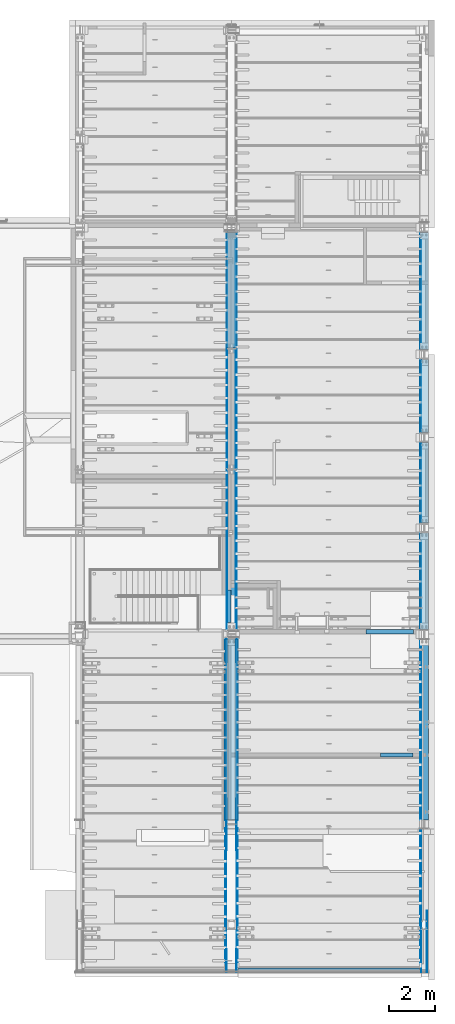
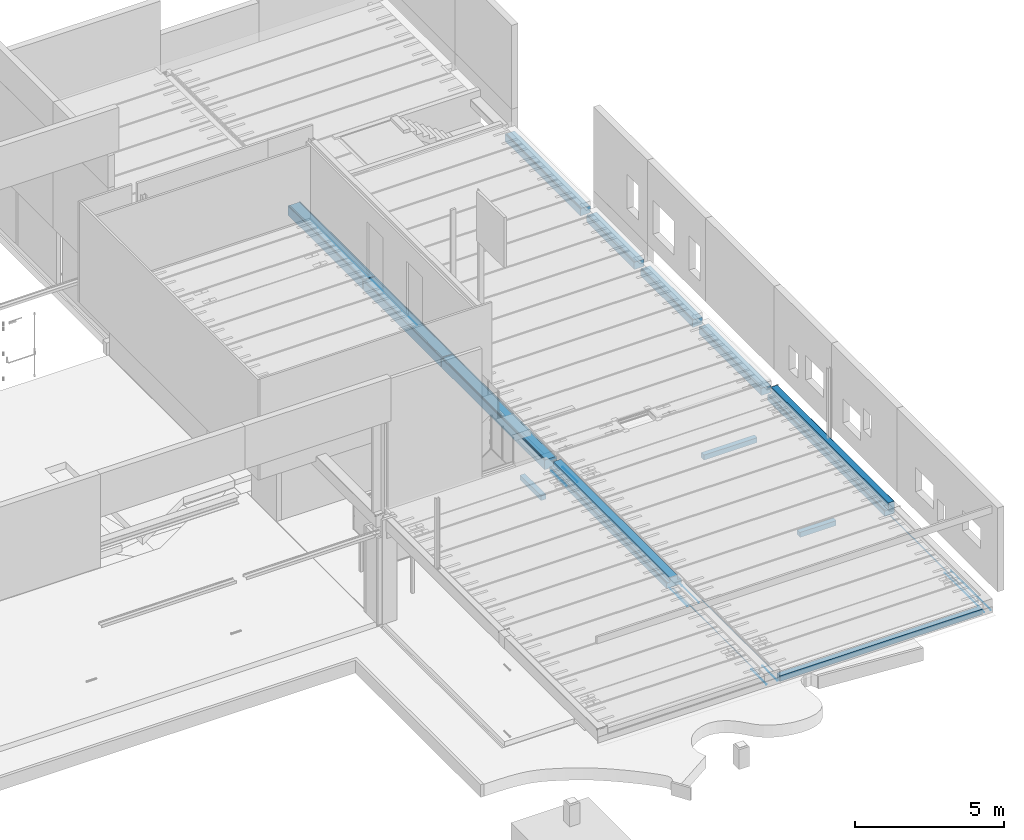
# One storey, part 8 of 230: 39 beams.
"""IFC4X3_ADD2 building model written with IfcOpenShell, lengths in millimetres."""

from ifc_helpers import new_model, si_unit, direction, frame, frame_2d, origin_with_axes, place, context, subcontext, project, spatial, polyline, indexed_curve, rectangle, outline, extrude, boolean, material, type_object, element, save


model = new_model("IFC4X3_ADD2")

# Units and contexts
model_context = context("Model", 3, precision=1e-05, world=origin_with_axes(), true_north=direction((0.0, 1.0)))
body_context = subcontext(model_context, "Body", "Model", "MODEL_VIEW")
ifc_project = project(units=[si_unit("LENGTHUNIT", "METRE", prefix="MILLI"), si_unit("AREAUNIT", "SQUARE_METRE"), si_unit("VOLUMEUNIT", "CUBIC_METRE"), si_unit("PLANEANGLEUNIT", "RADIAN"), si_unit("TIMEUNIT", "SECOND"), si_unit("MASSUNIT", "GRAM")], contexts=[model_context])

# Site, building, storey
site_placement = place(None, origin_with_axes())
site = spatial("IfcSite", under=ifc_project, at=site_placement, Name="Site", CompositionType="ELEMENT")
building_placement = place(site_placement, origin_with_axes())
building = spatial("IfcBuilding", under=site, at=building_placement, Name="IFC Building Story")
storey_placement = place(building_placement, origin_with_axes())
storey = spatial("IfcBuildingStorey", under=building, at=storey_placement, Name="ETAGE 00 (0)", Elevation=0.0)

# Beams
ifc_material_1 = material(Name="CONCRETE/C60/75 114932")
beam_type = type_object("IfcBeamType", Name="EB_RL_A500*390*225*150*15", PredefinedType="NOTDEFINED")
beam_1_placement = place(storey_placement, frame((48310.68599999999, -20.0, 4020.000000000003), z_axis=(0.0, -1.0, 0.0), x_axis=(1.0, 0.0, 0.0)))
element("IfcBeam", 1, at=beam_1_placement, inside=storey, type_object=beam_type, material=ifc_material_1, Name="BEAM", ObjectType="EB_RL_A500*390*225*150*15", context=body_context, shape_type="CSG", body=[
    boolean("UNION", boolean("DIFFERENCE", extrude(outline(indexed_curve([(-194.9999999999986, 235.0000000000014), (-179.9999999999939, 250.0), (179.9999999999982, 250.0), (194.9999999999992, 235.0), (194.9999999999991, -235.0000000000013), (179.9999999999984, -250.0), (-44.99999999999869, -250.0), (-44.99999999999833, 24.99999999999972), (-179.9999999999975, 24.99999999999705), (-194.9999999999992, 40.0), (-194.9999999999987, 235.0000000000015)])), origin_with_axes(), (0.0, 0.0, 1.0), 7840.0), extrude(outline(polyline([(95.0, 112.4999999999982), (95.0, -112.4999999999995), (-40.0, -112.5000000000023), (-55.0, -97.49999999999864), (-55.0, 97.50000000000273), (-39.99999999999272, 112.5000000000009), (95.0, 112.4999999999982)])), frame((-140.0, 137.4999999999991, 0.0), z_axis=(0.0, 0.0, 1.0), x_axis=(1.0, 0.0, 0.0)), (0.0, 0.0, 1.0), 7840.0)), extrude(outline(polyline([(95.0, 112.4999999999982), (95.0, -112.4999999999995), (-40.0, -112.5000000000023), (-55.0, -97.49999999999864), (-55.0, 97.50000000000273), (-39.99999999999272, 112.5000000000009), (95.0, 112.4999999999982)])), frame((-139.9999999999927, -137.5000000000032, 0.0), z_axis=(0.0, 0.0, 1.0), x_axis=(1.0, 0.0, 0.0)), (0.0, 0.0, 1.0), 7840.0)),
])
ifc_material_2 = material(Name="BS_28_Ossature en béton armé - Eléments coulé sur place")
beam_2_placement = place(storey_placement, frame((40261.68947816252, -14360.0, 3884.999999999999), z_axis=(1.0, 0.0, 0.0), x_axis=(0.0, 0.0, -1.0)))
element("IfcBeam", 2, at=beam_2_placement, inside=storey, material=ifc_material_2, Name="BS_28_SF_LE_Poutre rectangulaire_coulé:B.A. 20x(23+27)cm (C30/37)", ObjectType="B.A. 20x(23+27)cm (C30/37)", context=body_context, shape_type="SweptSolid", body=[
    extrude(rectangle(XDim=230.0, YDim=200.000000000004, at=frame_2d((0.0, 5.95523630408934e-12), x_axis=(1.0, 0.0))), origin_with_axes(), (0.0, 0.0, 1.0), 7839.999999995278),
])
beam_3_placement = place(storey_placement, frame((39856.6894781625, 704.88785156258, 2250.0), z_axis=(0.0, 1.0, 0.0), x_axis=(0.0, 0.0, -1.0)))
element("IfcBeam", 3, at=beam_3_placement, inside=storey, material=ifc_material_2, Name="BS_28_SF_LE_Poutre rectangulaire_coulé:L.P.", ObjectType="L.P.", context=body_context, shape_type="SweptSolid", body=[
    extrude(rectangle(XDim=200.0, YDim=190.0, at=frame_2d((0.0, 5.95523630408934e-12), x_axis=(1.0, 0.0))), origin_with_axes(), (0.0, 0.0, 1.0), 1400.0),
])
beam_4_placement = place(storey_placement, frame((47851.6894781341, 305.000000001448, 2100.0), z_axis=(-1.0, 0.0, 0.0), x_axis=(0.0, 0.0, -1.0)))
element("IfcBeam", 4, at=beam_4_placement, inside=storey, material=ifc_material_2, Name="BS_28_SF_LE_Poutre rectangulaire_coulé:L.P.", ObjectType="L.P.", context=body_context, shape_type="SweptSolid", body=[
    extrude(rectangle(XDim=200.0, YDim=190.0, at=frame_2d((0.0, 5.95523630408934e-12), x_axis=(1.0, 0.0))), origin_with_axes(), (0.0, 0.0, 1.0), 2059.999999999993),
])
beam_5_placement = place(storey_placement, frame((47826.9304312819, -5034.99991330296, 1950.0), z_axis=(-1.0, 0.0, 0.0), x_axis=(0.0, 0.0, -1.0)))
element("IfcBeam", 5, at=beam_5_placement, inside=storey, material=ifc_material_2, Name="BS_28_SF_LE_Poutre rectangulaire_coulé:L.P.", ObjectType="L.P.", context=body_context, shape_type="SweptSolid", body=[
    extrude(rectangle(XDim=200.0, YDim=190.0, at=frame_2d((0.0, 5.95523630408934e-12), x_axis=(1.0, 0.0))), origin_with_axes(), (0.0, 0.0, 1.0), 1400.0),
])
ifc_material_3 = material(Name="CONCRETE/C50/60 61830")
beam_6_placement = place(storey_placement, frame((39966.189, 7305.008, 3800.0), z_axis=(0.0, -1.0, 0.0), x_axis=(0.0, 0.0, 1.0)))
element("IfcBeam", 6, at=beam_6_placement, inside=storey, material=ifc_material_3, Name="BEAM", ObjectType="EB_R_400*490*15", context=body_context, shape_type="SweptSolid", body=[
    extrude(outline(indexed_curve([(185.0, 244.9999999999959), (200.0, 229.9999999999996), (200.0, -230.0), (185.0, -244.9999999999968), (-185.0, -244.9999999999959), (-200.0, -229.9999999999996), (-199.9999999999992, 229.9999999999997), (-185.0, 244.9999999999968), (185.0, 244.9999999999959)])), origin_with_axes(), (0.0, 0.0, 1.0), 6895.008),
])
beam_7_placement = place(storey_placement, frame((39966.189, 12544.838, 3800.0), z_axis=(0.0, -1.0, 0.0), x_axis=(0.0, 0.0, 1.0)))
element("IfcBeam", 7, at=beam_7_placement, inside=storey, material=ifc_material_3, Name="BEAM", ObjectType="EB_R_400*490*15", context=body_context, shape_type="SweptSolid", body=[
    extrude(outline(indexed_curve([(185.0, 244.9999999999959), (200.0, 229.9999999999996), (200.0, -230.0), (185.0, -244.9999999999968), (-185.0, -244.9999999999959), (-200.0, -229.9999999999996), (-199.9999999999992, 229.9999999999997), (-185.0, 244.9999999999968), (185.0, 244.9999999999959)])), origin_with_axes(), (0.0, 0.0, 1.0), 5200.0),
])
beam_8_placement = place(storey_placement, frame((39966.189, 17590.0, 3800.0), z_axis=(0.0, -1.0, 0.0), x_axis=(0.0, 0.0, 1.0)))
element("IfcBeam", 8, at=beam_8_placement, inside=storey, material=ifc_material_3, Name="BEAM", ObjectType="EB_R_400*490*15", context=body_context, shape_type="SweptSolid", body=[
    extrude(outline(indexed_curve([(185.0, 244.9999999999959), (200.0, 229.9999999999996), (200.0, -230.0), (185.0, -244.9999999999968), (-185.0, -244.9999999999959), (-200.0, -229.9999999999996), (-199.9999999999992, 229.9999999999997), (-185.0, 244.9999999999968), (185.0, 244.9999999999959)])), origin_with_axes(), (0.0, 0.0, 1.0), 5005.002),
])
beam_9_placement = place(storey_placement, frame((48310.68599999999, 17590.09961090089, 3850.0), z_axis=(0.0, -1.0, 0.0), x_axis=(0.0, 0.0, -1.0)))
element("IfcBeam", 9, at=beam_9_placement, inside=storey, material=ifc_material_3, Name="BEAM", ObjectType="EB_R_300*390*15", context=body_context, shape_type="SweptSolid", body=[
    extrude(outline(indexed_curve([(135.000000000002, 194.9999999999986), (150.0, 179.9999999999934), (150.0, -179.9999999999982), (135.0, -194.9999999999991), (-135.0000000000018, -194.999999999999), (-150.0, -179.9999999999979), (-150.0000000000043, 179.9999999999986), (-134.9999999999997, 194.9999999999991), (135.000000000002, 194.9999999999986)])), origin_with_axes(), (0.0, 0.0, 1.0), 5055.098999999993),
])
beam_10_placement = place(storey_placement, frame((48310.68599999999, 12105.1006109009, 3850.0), z_axis=(0.0, -1.0, 0.0), x_axis=(0.0, 0.0, -1.0)))
element("IfcBeam", 10, at=beam_10_placement, inside=storey, material=ifc_material_3, Name="BEAM", ObjectType="EB_R_300*390*15", context=body_context, shape_type="SweptSolid", body=[
    extrude(outline(indexed_curve([(135.000000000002, 194.9999999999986), (150.0, 179.9999999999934), (150.0, -179.9999999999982), (135.0, -194.9999999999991), (-135.0000000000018, -194.999999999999), (-150.0, -179.9999999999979), (-150.0000000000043, 179.9999999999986), (-134.9999999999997, 194.9999999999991), (135.000000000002, 194.9999999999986)])), origin_with_axes(), (0.0, 0.0, 1.0), 3180.099999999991),
])
beam_11_placement = place(storey_placement, frame((48310.68599999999, 8495.1006109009, 3850.0), z_axis=(0.0, -1.0, 0.0), x_axis=(0.0, 0.0, -1.0)))
element("IfcBeam", 11, at=beam_11_placement, inside=storey, material=ifc_material_3, Name="BEAM", ObjectType="EB_R_300*390*15", context=body_context, shape_type="SweptSolid", body=[
    extrude(outline(indexed_curve([(135.000000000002, 194.9999999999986), (150.0, 179.9999999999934), (150.0, -179.9999999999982), (135.0, -194.9999999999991), (-135.0000000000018, -194.999999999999), (-150.0, -179.9999999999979), (-150.0000000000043, 179.9999999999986), (-134.9999999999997, 194.9999999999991), (135.000000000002, 194.9999999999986)])), origin_with_axes(), (0.0, 0.0, 1.0), 3480.099999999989),
])
beam_12_placement = place(storey_placement, frame((48310.68599999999, 4585.000610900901, 3850.0), z_axis=(0.0, -1.0, 0.0), x_axis=(0.0, 0.0, -1.0)))
element("IfcBeam", 12, at=beam_12_placement, inside=storey, material=ifc_material_3, Name="BEAM", ObjectType="EB_R_300*390*15", context=body_context, shape_type="SweptSolid", body=[
    extrude(outline(indexed_curve([(135.000000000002, 194.9999999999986), (150.0, 179.9999999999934), (150.0, -179.9999999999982), (135.0, -194.9999999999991), (-135.0000000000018, -194.999999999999), (-150.0, -179.9999999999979), (-150.0000000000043, 179.9999999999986), (-134.9999999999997, 194.9999999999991), (135.000000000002, 194.9999999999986)])), origin_with_axes(), (0.0, 0.0, 1.0), 4175.000610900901),
])
beam_13_placement = place(storey_placement, frame((39966.18900000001, -20.0, 3970.000000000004), z_axis=(0.0, -1.0, 0.0), x_axis=(0.0, 0.0, -1.0)))
element("IfcBeam", 13, at=beam_13_placement, inside=storey, material=ifc_material_1, Name="BEAM", ObjectType="EB_RT_A400*590*225*150*225*150*15", context=body_context, shape_type="SweptSolid", body=[
    extrude(outline(indexed_curve([(184.9999999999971, 295.000000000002), (200.0, 279.9999999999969), (200.0, -280.0000000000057), (185.0, -295.0000000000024), (-9.999999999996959, -295.000000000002), (-24.99999999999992, -280.0000000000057), (-24.99999999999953, -145.0000000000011), (-200.0, -145.0000000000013), (-199.9999999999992, 145.0000000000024), (-24.99999999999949, 145.0000000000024), (-24.99999999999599, 279.999999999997), (-9.999999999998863, 295.0000000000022), (184.9999999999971, 295.000000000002)])), origin_with_axes(), (0.0, 0.0, 1.0), 7840.0),
])
ifc_material_4 = material(Name="STEEL/Accessory_Rubber")
beam_14_placement = place(storey_placement, frame((40151.1929818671, 3857.50401735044, 4002.0), z_axis=(0.999999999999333, -1.155000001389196e-06, 0.0), x_axis=(0.0, 0.0, -1.0)))
element("IfcBeam", 14, at=beam_14_placement, inside=storey, material=ifc_material_4, Name="NE6", ObjectType="4*30", context=body_context, shape_type="SweptSolid", body=[
    extrude(rectangle(XDim=4.0, YDim=6895.00800005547, at=frame_2d((0.0, 5.95523630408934e-12), x_axis=(1.0, 0.0))), origin_with_axes(), (0.0, 0.0, 1.0), 29.99999999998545),
])
beam_15_placement = place(storey_placement, frame((39751.1772714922, 3857.503948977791, 4002.0), z_axis=(0.9999999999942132, 3.402000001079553e-06, 0.0), x_axis=(0.0, 0.0, -1.0)))
element("IfcBeam", 15, at=beam_15_placement, inside=storey, material=ifc_material_4, Name="NE6", ObjectType="4*30", context=body_context, shape_type="SweptSolid", body=[
    extrude(rectangle(XDim=4.0, YDim=6895.00800005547, at=frame_2d((0.0, 5.95523630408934e-12), x_axis=(1.0, 0.0))), origin_with_axes(), (0.0, 0.0, 1.0), 29.99999999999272),
])
for number, where, z_axis, x_axis, name in (
    (16, (40151.192003, 9944.838017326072, 4002.0), (0.999999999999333, -1.155000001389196e-06, 0.0), (0.0, 0.0, -1.0), "NE6"),
    (17, (39751.1841873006, 9944.83797223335, 4002.0), (0.999999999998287, 1.8510000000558e-06, 0.0), (0.0, 0.0, -1.0), "NE6"),
):
    element("IfcBeam", number, at=place(storey_placement, frame(where, z_axis=z_axis, x_axis=x_axis)), inside=storey, material=ifc_material_4, Name=name, ObjectType="4*30 2", context=body_context, shape_type="SweptSolid", body=[
        extrude(rectangle(XDim=4.0, YDim=5200.000000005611, at=frame_2d((0.0, 5.95523630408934e-12), x_axis=(1.0, 0.0))), origin_with_axes(), (0.0, 0.0, 1.0), 29.99999999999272),
    ])
beam_16_placement = place(storey_placement, frame((39751.1843153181, 15087.4990280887, 4002.0), z_axis=(0.999999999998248, -1.872000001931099e-06, 0.0), x_axis=(0.0, 0.0, 1.0)))
element("IfcBeam", 18, at=beam_16_placement, inside=storey, material=ifc_material_4, Name="NE6", ObjectType="4*30 3", context=body_context, shape_type="SweptSolid", body=[
    extrude(rectangle(XDim=4.0, YDim=5005.00199999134, at=frame_2d((0.0, 5.95523630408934e-12), x_axis=(1.0, 0.0))), origin_with_axes(), (0.0, 0.0, 1.0), 29.99999999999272),
])
beam_17_placement = place(storey_placement, frame((40151.1938124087, 15087.498971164, 4002.0), z_axis=(0.999999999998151, 1.923000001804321e-06, 0.0), x_axis=(0.0, 0.0, 1.0)))
element("IfcBeam", 19, at=beam_17_placement, inside=storey, material=ifc_material_4, Name="NE6", ObjectType="4*30 3", context=body_context, shape_type="SweptSolid", body=[
    extrude(rectangle(XDim=4.0, YDim=5005.00199999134, at=frame_2d((0.0, 5.95523630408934e-12), x_axis=(1.0, 0.0))), origin_with_axes(), (0.0, 0.0, 1.0), 29.99999999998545),
])
beam_18_placement = place(storey_placement, frame((48145.68599999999, 15062.5501109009, 4002.0), z_axis=(1.0, 0.0, 0.0), x_axis=(0.0, 0.0, -1.0)))
element("IfcBeam", 20, at=beam_18_placement, inside=storey, material=ifc_material_4, Name="NE6", ObjectType="4*30 10", context=body_context, shape_type="SweptSolid", body=[
    extrude(rectangle(XDim=4.0, YDim=5055.099, at=frame_2d((0.0, 5.95523630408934e-12), x_axis=(1.0, 0.0))), origin_with_axes(), (0.0, 0.0, 1.0), 29.99999999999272),
])
beam_19_placement = place(storey_placement, frame((48145.68599999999, 10515.0506109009, 4002.0), z_axis=(1.0, 0.0, 0.0), x_axis=(0.0, 0.0, -1.0)))
element("IfcBeam", 21, at=beam_19_placement, inside=storey, material=ifc_material_4, Name="NE6", ObjectType="4*30 11", context=body_context, shape_type="SweptSolid", body=[
    extrude(rectangle(XDim=4.0, YDim=3180.1, at=frame_2d((0.0, 5.95523630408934e-12), x_axis=(1.0, 0.0))), origin_with_axes(), (0.0, 0.0, 1.0), 29.99999999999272),
])
beam_20_placement = place(storey_placement, frame((48145.68599999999, 6755.05061090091, 4002.0), z_axis=(1.0, 0.0, 0.0), x_axis=(0.0, 0.0, -1.0)))
element("IfcBeam", 22, at=beam_20_placement, inside=storey, material=ifc_material_4, Name="NE6", ObjectType="4*30 12", context=body_context, shape_type="SweptSolid", body=[
    extrude(rectangle(XDim=4.0, YDim=3480.1, at=frame_2d((0.0, 5.95523630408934e-12), x_axis=(1.0, 0.0))), origin_with_axes(), (0.0, 0.0, 1.0), 29.99999999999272),
])
beam_21_placement = place(storey_placement, frame((48145.68599999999, 2497.5005, 4002.0), z_axis=(1.0, 0.0, 0.0), x_axis=(0.0, 0.0, -1.0)))
element("IfcBeam", 23, at=beam_21_placement, inside=storey, material=ifc_material_4, Name="NE6", ObjectType="4*30 13", context=body_context, shape_type="SweptSolid", body=[
    extrude(rectangle(XDim=4.0, YDim=4175.001, at=frame_2d((0.0, 5.95523630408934e-12), x_axis=(1.0, 0.0))), origin_with_axes(), (0.0, 0.0, 1.0), 29.99999999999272),
])
beam_22_placement = place(storey_placement, frame((48145.68599999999, -11140.0, 3997.0), z_axis=(1.0, 0.0, 0.0), x_axis=(0.0, 0.0, -1.0)))
element("IfcBeam", 24, at=beam_22_placement, inside=storey, material=ifc_material_4, Name="NE6", ObjectType="4*30 14", context=body_context, shape_type="SweptSolid", body=[
    extrude(rectangle(XDim=3.99999999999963, YDim=5860.0, at=frame_2d((0.0, 5.95523630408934e-12), x_axis=(1.0, 0.0))), origin_with_axes(), (0.0, 0.0, 1.0), 29.99999999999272),
])
ifc_material_5 = material(Name="STEEL/Accessory 32414")
beam_23_placement = place(storey_placement, frame((48435.686, -11790.0, 3819.999999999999), z_axis=(0.0, -1.0, 0.0), x_axis=(-0.3826834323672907, 0.0, -0.9238795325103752)))
element("IfcBeam", 25, at=beam_23_placement, inside=storey, material=ifc_material_5, Name="ZW6", ObjectType="D14", context=body_context, shape_type="SweptSolid", body=[
    extrude(outline(indexed_curve([(2.678784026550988, 6.467156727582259), (6.467156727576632, 2.678784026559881), (6.467156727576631, -2.678784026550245), (2.67878402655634, -6.467156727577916), (-2.67878402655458, -6.467156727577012), (-6.46715672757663, -2.678784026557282), (-6.467156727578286, 2.678784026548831), (-2.67878402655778, 6.467156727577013), (2.678784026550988, 6.46715672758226)])), origin_with_axes(), (0.0, 0.0, 1.0), 2649.999999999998),
])
beam_24_placement = place(storey_placement, frame((48185.68599999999, -11790.0, 3819.999999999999), z_axis=(0.0, -1.0, 0.0), x_axis=(-0.3826834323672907, 0.0, -0.9238795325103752)))
element("IfcBeam", 26, at=beam_24_placement, inside=storey, material=ifc_material_5, Name="ZW6", ObjectType="D14", context=body_context, shape_type="SweptSolid", body=[
    extrude(outline(indexed_curve([(2.678784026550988, 6.467156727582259), (6.467156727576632, 2.678784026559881), (6.467156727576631, -2.678784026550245), (2.67878402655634, -6.467156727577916), (-2.67878402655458, -6.467156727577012), (-6.46715672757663, -2.678784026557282), (-6.467156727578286, 2.678784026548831), (-2.67878402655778, 6.467156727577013), (2.678784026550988, 6.46715672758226)])), origin_with_axes(), (0.0, 0.0, 1.0), 2650.000000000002),
])
for number, where, z_axis, x_axis, name in (
    (27, (40201.189, -11140.0, 3997.0), (1.0, 0.0, 0.0), (0.0, 0.0, -1.0), "NE6"),
    (28, (39701.189, -11140.0, 3997.0), (1.0, 0.0, 0.0), (0.0, 0.0, -1.0), "NE6"),
):
    element("IfcBeam", number, at=place(storey_placement, frame(where, z_axis=z_axis, x_axis=x_axis)), inside=storey, material=ifc_material_4, Name=name, ObjectType="4*30 14", context=body_context, shape_type="SweptSolid", body=[
        extrude(rectangle(XDim=3.99999999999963, YDim=5860.0, at=frame_2d((0.0, 5.95523630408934e-12), x_axis=(1.0, 0.0))), origin_with_axes(), (0.0, 0.0, 1.0), 29.99999999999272),
    ])
beam_25_placement = place(storey_placement, frame((39751.18900000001, -13440.0, 3820.000000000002), z_axis=(0.0, -1.0, 0.0), x_axis=(-0.9238795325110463, 0.0, -0.3826834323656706)))
element("IfcBeam", 29, at=beam_25_placement, inside=storey, material=ifc_material_5, Name="ZW6", ObjectType="D14", context=body_context, shape_type="SweptSolid", body=[
    extrude(outline(indexed_curve([(2.678784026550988, 6.467156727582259), (6.467156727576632, 2.678784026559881), (6.467156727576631, -2.678784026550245), (2.67878402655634, -6.467156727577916), (-2.67878402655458, -6.467156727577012), (-6.46715672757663, -2.678784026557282), (-6.467156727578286, 2.678784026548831), (-2.67878402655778, 6.467156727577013), (2.678784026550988, 6.46715672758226)])), origin_with_axes(), (0.0, 0.0, 1.0), 1000.0),
])
beam_26_placement = place(storey_placement, frame((39751.18900000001, -8050.0, 3820.000000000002), z_axis=(0.0, -1.0, 0.0), x_axis=(-0.9238795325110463, 0.0, -0.3826834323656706)))
element("IfcBeam", 30, at=beam_26_placement, inside=storey, material=ifc_material_5, Name="ZW6", ObjectType="D14", context=body_context, shape_type="SweptSolid", body=[
    extrude(outline(indexed_curve([(2.678784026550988, 6.467156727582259), (6.467156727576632, 2.678784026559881), (6.467156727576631, -2.678784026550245), (2.67878402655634, -6.467156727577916), (-2.67878402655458, -6.467156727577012), (-6.46715672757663, -2.678784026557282), (-6.467156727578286, 2.678784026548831), (-2.67878402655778, 6.467156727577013), (2.678784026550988, 6.46715672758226)])), origin_with_axes(), (0.0, 0.0, 1.0), 1099.999999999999),
])
beam_27_placement = place(storey_placement, frame((40181.18900000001, -13440.0, 3820.0), z_axis=(0.0, -1.0, 0.0), x_axis=(-0.9238795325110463, 0.0, -0.3826834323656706)))
element("IfcBeam", 31, at=beam_27_placement, inside=storey, material=ifc_material_5, Name="ZW6", ObjectType="D14", context=body_context, shape_type="SweptSolid", body=[
    extrude(outline(indexed_curve([(2.678784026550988, 6.467156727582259), (6.467156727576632, 2.678784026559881), (6.467156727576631, -2.678784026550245), (2.67878402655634, -6.467156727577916), (-2.67878402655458, -6.467156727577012), (-6.46715672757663, -2.678784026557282), (-6.467156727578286, 2.678784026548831), (-2.67878402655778, 6.467156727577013), (2.678784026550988, 6.46715672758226)])), origin_with_axes(), (0.0, 0.0, 1.0), 1000.0),
])
beam_28_placement = place(storey_placement, frame((40181.18900000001, -8050.0, 3820.0), z_axis=(0.0, -1.0, 0.0), x_axis=(-0.9238795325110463, 0.0, -0.3826834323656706)))
element("IfcBeam", 32, at=beam_28_placement, inside=storey, material=ifc_material_5, Name="ZW6", ObjectType="D14", context=body_context, shape_type="SweptSolid", body=[
    extrude(outline(indexed_curve([(2.678784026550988, 6.467156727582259), (6.467156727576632, 2.678784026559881), (6.467156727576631, -2.678784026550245), (2.67878402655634, -6.467156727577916), (-2.67878402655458, -6.467156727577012), (-6.46715672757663, -2.678784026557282), (-6.467156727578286, 2.678784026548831), (-2.67878402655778, 6.467156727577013), (2.678784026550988, 6.46715672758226)])), origin_with_axes(), (0.0, 0.0, 1.0), 1100.0),
])
for number, where, z_axis, x_axis, name in (
    (33, (40201.189, -3940.0, 3997.0), (1.0, 0.0, 0.0), (0.0, 0.0, -1.0), "NE6"),
    (34, (39701.189, -3940.0, 3997.0), (1.0, 0.0, 0.0), (0.0, 0.0, -1.0), "NE6"),
):
    element("IfcBeam", number, at=place(storey_placement, frame(where, z_axis=z_axis, x_axis=x_axis)), inside=storey, material=ifc_material_4, Name=name, ObjectType="4*30 15", context=body_context, shape_type="SweptSolid", body=[
        extrude(rectangle(XDim=3.99999999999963, YDim=7840.0, at=frame_2d((0.0, 5.95523630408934e-12), x_axis=(1.0, 0.0))), origin_with_axes(), (0.0, 0.0, 1.0), 29.99999999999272),
    ])
beam_29_placement = place(storey_placement, frame((39751.18900000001, -6920.0, 3820.000000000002), z_axis=(0.0, -1.0, 0.0), x_axis=(-0.9238795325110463, 0.0, -0.3826834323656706)))
element("IfcBeam", 35, at=beam_29_placement, inside=storey, material=ifc_material_5, Name="ZW6", ObjectType="D14", context=body_context, shape_type="SweptSolid", body=[
    extrude(outline(indexed_curve([(2.678784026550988, 6.467156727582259), (6.467156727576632, 2.678784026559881), (6.467156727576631, -2.678784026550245), (2.67878402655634, -6.467156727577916), (-2.67878402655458, -6.467156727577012), (-6.46715672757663, -2.678784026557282), (-6.467156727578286, 2.678784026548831), (-2.67878402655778, 6.467156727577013), (2.678784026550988, 6.46715672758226)])), origin_with_axes(), (0.0, 0.0, 1.0), 1100.0),
])
beam_30_placement = place(storey_placement, frame((39751.18900000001, -20.0, 3820.000000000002), z_axis=(0.0, -1.0, 0.0), x_axis=(-0.9238795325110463, 0.0, -0.3826834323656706)))
element("IfcBeam", 36, at=beam_30_placement, inside=storey, material=ifc_material_5, Name="ZW6", ObjectType="D14", context=body_context, shape_type="SweptSolid", body=[
    extrude(outline(indexed_curve([(2.678784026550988, 6.467156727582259), (6.467156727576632, 2.678784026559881), (6.467156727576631, -2.678784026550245), (2.67878402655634, -6.467156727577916), (-2.67878402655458, -6.467156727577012), (-6.46715672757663, -2.678784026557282), (-6.467156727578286, 2.678784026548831), (-2.67878402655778, 6.467156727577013), (2.678784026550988, 6.46715672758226)])), origin_with_axes(), (0.0, 0.0, 1.0), 999.9999999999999),
])
beam_31_placement = place(storey_placement, frame((40181.18900000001, -6920.0, 3820.0), z_axis=(0.0, -1.0, 0.0), x_axis=(-0.9238795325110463, 0.0, -0.3826834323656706)))
element("IfcBeam", 37, at=beam_31_placement, inside=storey, material=ifc_material_5, Name="ZW6", ObjectType="D14", context=body_context, shape_type="SweptSolid", body=[
    extrude(outline(indexed_curve([(2.678784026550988, 6.467156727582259), (6.467156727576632, 2.678784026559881), (6.467156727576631, -2.678784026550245), (2.67878402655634, -6.467156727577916), (-2.67878402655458, -6.467156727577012), (-6.46715672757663, -2.678784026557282), (-6.467156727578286, 2.678784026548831), (-2.67878402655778, 6.467156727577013), (2.678784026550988, 6.46715672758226)])), origin_with_axes(), (0.0, 0.0, 1.0), 1100.0),
])
beam_32_placement = place(storey_placement, frame((40181.18900000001, -19.99999999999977, 3820.0), z_axis=(0.0, -1.0, 0.0), x_axis=(-0.9238795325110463, 0.0, -0.3826834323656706)))
element("IfcBeam", 38, at=beam_32_placement, inside=storey, material=ifc_material_5, Name="ZW6", ObjectType="D14", context=body_context, shape_type="SweptSolid", body=[
    extrude(outline(indexed_curve([(2.678784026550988, 6.467156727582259), (6.467156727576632, 2.678784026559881), (6.467156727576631, -2.678784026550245), (2.67878402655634, -6.467156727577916), (-2.67878402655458, -6.467156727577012), (-6.46715672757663, -2.678784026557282), (-6.467156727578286, 2.678784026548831), (-2.67878402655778, 6.467156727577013), (2.678784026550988, 6.46715672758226)])), origin_with_axes(), (0.0, 0.0, 1.0), 1000.0),
])
beam_33_placement = place(storey_placement, frame((48145.68599999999, -3940.0, 3997.0), z_axis=(1.0, 0.0, 0.0), x_axis=(0.0, 0.0, 1.0)))
element("IfcBeam", 39, at=beam_33_placement, inside=storey, material=ifc_material_4, Name="NE6", ObjectType="4*30 15", context=body_context, shape_type="SweptSolid", body=[
    extrude(rectangle(XDim=3.99999999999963, YDim=7840.0, at=frame_2d((0.0, 5.95523630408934e-12), x_axis=(1.0, 0.0))), origin_with_axes(), (0.0, 0.0, 1.0), 29.99999999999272),
])

save(model, "model.ifc")
